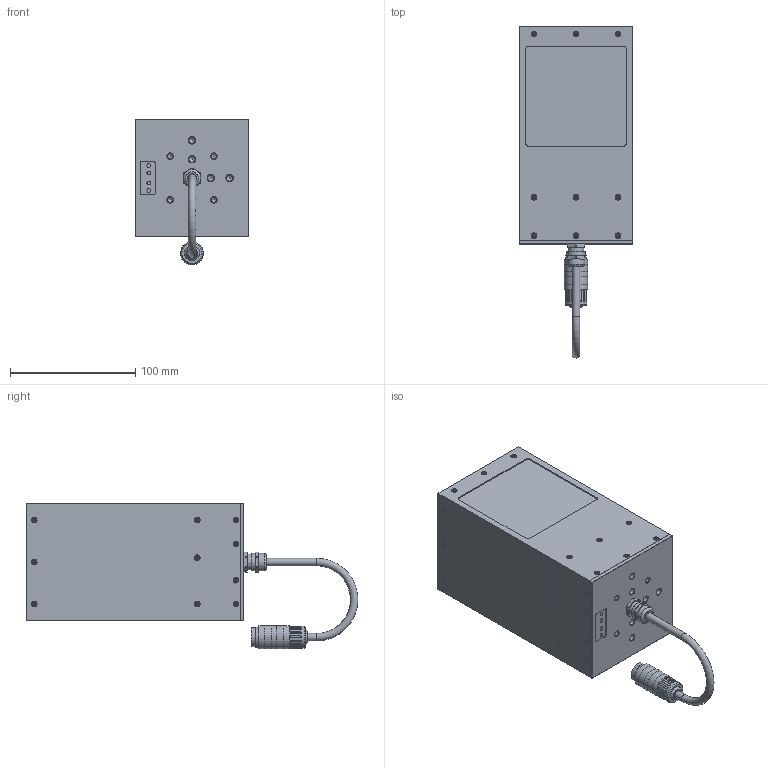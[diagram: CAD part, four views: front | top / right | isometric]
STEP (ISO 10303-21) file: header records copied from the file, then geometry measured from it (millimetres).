
FILE_DESCRIPTION(/* description */ ('Unknown','CAx-IF Rec.Pracs.---Representation and Presentation of Product Manufacturing Information (PMI)---4.0---2014-10-13','CAx-IF Rec.Pracs.---3D Tessellated Geometry---0.4---2014-09-14','2;1'),/* implementation_level */ '2;1');
FILE_NAME(/* name */ '10X.0083_LES80_LES80FL',/* time_stamp */ '2021-06-10T09:49:01+02:00',/* author */ ('AW'),/* organization */ ('iiM AG'),/* preprocessor_version */ 'ST-DEVELOPER v16.7',/* originating_system */ 'DEX',/* authorisation */ $);
FILE_SCHEMA (('AP242_MANAGED_MODEL_BASED_3D_ENGINEERING_MIM_LF { 1 0 10303 442 1 1 4 }'));
Products named in the file (1): LES80_LES80FL vereinfacht
Bounding box: 91 x 265 x 116.3 mm (x, y, z)
Volume: 366492.4 mm3; surface area: 173596.1 mm2
Topology: 16 solids, 16 shells, 1855 faces, 4978 edges, 3283 vertices
Faces by surface type: plane 955, cylinder 691, cone 119, torus 78, sphere 12
Full cylindrical faces by diameter (mm): 1 x12, 1.454 x38, 1.567 x4, 2 x38, 2.4 x38, 3 x4, 4 x2, 4.134 x8, 4.917 x20, 6 x2, 7 x3, 8 x1, 8.376 x1, 10 x1, 12.5 x1, 13.8 x2, 15 x1, 16 x1, 17.5 x1, 18.5 x3, 18.6 x2
Entity records: 66715 total; most frequent: CARTESIAN_POINT 10370, DIRECTION 9278, ORIENTED_EDGE 8742, EDGE_CURVE 4371, AXIS2_PLACEMENT_3D 3381, VERTEX_POINT 3083, LINE 2516, VECTOR 2516
